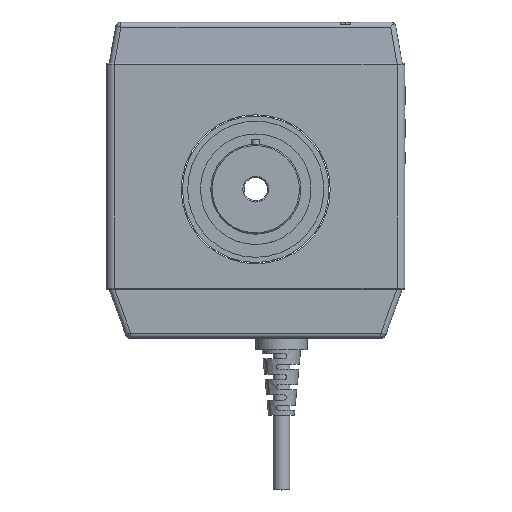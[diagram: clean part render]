
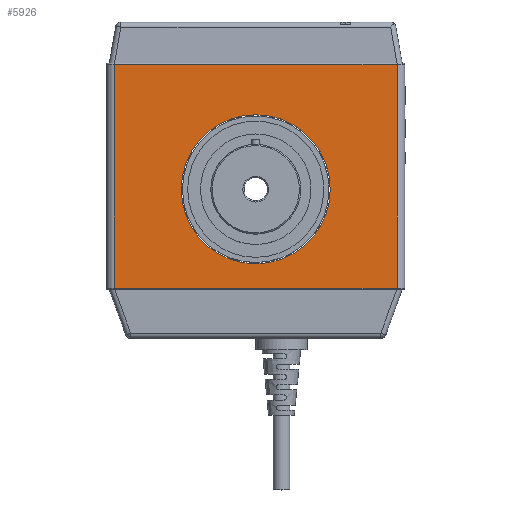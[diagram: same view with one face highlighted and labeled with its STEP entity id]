
A CAD part, top view. The second image highlights one B-rep face of the part: STEP entity #5926.
In plain terms, the highlighted planar face has unit normal (0, 0, 1).
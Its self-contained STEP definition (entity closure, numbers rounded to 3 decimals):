
#631 = LINE ( 'NONE', #3325, #5857 ) ;
#667 = AXIS2_PLACEMENT_3D ( 'NONE', #14945, #16270, #4863 ) ;
#1312 = LINE ( 'NONE', #10162, #1620 ) ;
#1620 = VECTOR ( 'NONE', #14956, 1000. ) ;
#1769 = CARTESIAN_POINT ( 'NONE',  ( -29., 0., 32. ) ) ;
#1770 = DIRECTION ( 'NONE',  ( 1., 0., 0. ) ) ;
#1951 = VERTEX_POINT ( 'NONE', #9832 ) ;
#2228 = DIRECTION ( 'NONE',  ( 1., 0., 0. ) ) ;
#2304 = LINE ( 'NONE', #5961, #15553 ) ;
#2845 = VECTOR ( 'NONE', #15657, 1000. ) ;
#2869 = CARTESIAN_POINT ( 'NONE',  ( -55., 48.5, 32. ) ) ;
#3325 = CARTESIAN_POINT ( 'NONE',  ( 55., 48.5, 32. ) ) ;
#3588 = VERTEX_POINT ( 'NONE', #16243 ) ;
#3609 = ORIENTED_EDGE ( 'NONE', *, *, #11447, .T. ) ;
#3909 = CARTESIAN_POINT ( 'NONE',  ( 0., 0., 32. ) ) ;
#4332 = CIRCLE ( 'NONE', #667, 29. ) ;
#4404 = VERTEX_POINT ( 'NONE', #1769 ) ;
#4414 = AXIS2_PLACEMENT_3D ( 'NONE', #13808, #6134, #16218 ) ;
#4711 = ORIENTED_EDGE ( 'NONE', *, *, #5154, .F. ) ;
#4746 = CARTESIAN_POINT ( 'NONE',  ( -55., -38.5, 32. ) ) ;
#4805 = ORIENTED_EDGE ( 'NONE', *, *, #10668, .F. ) ;
#4863 = DIRECTION ( 'NONE',  ( 1., 0., 0. ) ) ;
#5154 = EDGE_CURVE ( 'NONE', #4404, #3588, #4332, .T. ) ;
#5565 = VERTEX_POINT ( 'NONE', #4746 ) ;
#5857 = VECTOR ( 'NONE', #8142, 1000. ) ;
#5926 = ADVANCED_FACE ( 'NONE', ( #15049, #14893 ), #8778, .T. ) ;
#5961 = CARTESIAN_POINT ( 'NONE',  ( 0., -38.5, 32. ) ) ;
#6095 = AXIS2_PLACEMENT_3D ( 'NONE', #3909, #14004, #1770 ) ;
#6134 = DIRECTION ( 'NONE',  ( 0., 0., 1. ) ) ;
#7288 = EDGE_CURVE ( 'NONE', #10346, #14089, #13005, .T. ) ;
#8142 = DIRECTION ( 'NONE',  ( 0., 1., 0. ) ) ;
#8522 = EDGE_CURVE ( 'NONE', #5565, #1951, #2304, .T. ) ;
#8778 = PLANE ( 'NONE',  #4414 ) ;
#9019 = ORIENTED_EDGE ( 'NONE', *, *, #13438, .T. ) ;
#9479 = EDGE_LOOP ( 'NONE', ( #11037, #9019, #16013, #3609 ) ) ;
#9832 = CARTESIAN_POINT ( 'NONE',  ( 55., -38.5, 32. ) ) ;
#10162 = CARTESIAN_POINT ( 'NONE',  ( -55., -38.5, 32. ) ) ;
#10346 = VERTEX_POINT ( 'NONE', #13345 ) ;
#10371 = CARTESIAN_POINT ( 'NONE',  ( 0., 48.5, 32. ) ) ;
#10668 = EDGE_CURVE ( 'NONE', #3588, #4404, #11380, .T. ) ;
#10734 = EDGE_LOOP ( 'NONE', ( #4711, #4805 ) ) ;
#11037 = ORIENTED_EDGE ( 'NONE', *, *, #8522, .T. ) ;
#11380 = CIRCLE ( 'NONE', #6095, 29. ) ;
#11447 = EDGE_CURVE ( 'NONE', #14089, #5565, #1312, .T. ) ;
#13005 = LINE ( 'NONE', #10371, #2845 ) ;
#13345 = CARTESIAN_POINT ( 'NONE',  ( 55., 48.5, 32. ) ) ;
#13438 = EDGE_CURVE ( 'NONE', #1951, #10346, #631, .T. ) ;
#13808 = CARTESIAN_POINT ( 'NONE',  ( 0., 0., 32. ) ) ;
#14004 = DIRECTION ( 'NONE',  ( 0., 0., 1. ) ) ;
#14089 = VERTEX_POINT ( 'NONE', #2869 ) ;
#14893 = FACE_OUTER_BOUND ( 'NONE', #9479, .T. ) ;
#14945 = CARTESIAN_POINT ( 'NONE',  ( 0., 0., 32. ) ) ;
#14956 = DIRECTION ( 'NONE',  ( 0., -1., 0. ) ) ;
#15049 = FACE_BOUND ( 'NONE', #10734, .T. ) ;
#15553 = VECTOR ( 'NONE', #2228, 1000. ) ;
#15657 = DIRECTION ( 'NONE',  ( -1., 0., 0. ) ) ;
#16013 = ORIENTED_EDGE ( 'NONE', *, *, #7288, .T. ) ;
#16218 = DIRECTION ( 'NONE',  ( 1., 0., 0. ) ) ;
#16243 = CARTESIAN_POINT ( 'NONE',  ( 29., 0., 32. ) ) ;
#16270 = DIRECTION ( 'NONE',  ( 0., 0., 1. ) ) ;
